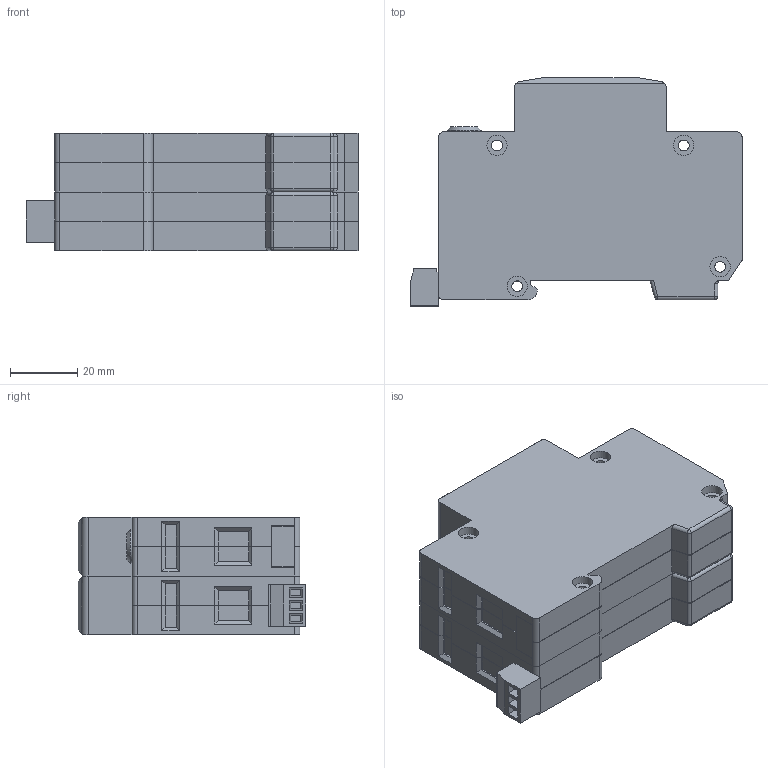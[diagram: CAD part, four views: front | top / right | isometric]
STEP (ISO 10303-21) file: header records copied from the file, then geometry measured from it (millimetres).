
FILE_DESCRIPTION(/* description */ (''),/* implementation_level */ '2;1');
FILE_NAME(/* name */ 'K:\PROJEKTY ROZPRACOVANÉ\MODELY DO KATALOGU\HSA, HLSA 24520, 10007\3D - STEP\H 1+1 S.stp',/* time_stamp */ '2022-04-01T07:43:16+02:00',/* author */ ('miko'),/* organization */ (''),/* preprocessor_version */ 'ST-DEVELOPER v18.1',/* originating_system */ 'Autodesk Inventor 2022',/* authorisation */ '');
FILE_SCHEMA (('AUTOMOTIVE_DESIGN { 1 0 10303 214 3 1 1 }'));
Length unit declared in the file: millimetre
Products named in the file (10): H 1+1 S; HLSA S; HLSA S_1; KONEKTOR DEGSON 15EDGK 3.81; KONEKTOR SAMEC; ISO 2009 - M1,6 x 2,5; KONEKTOR DEGSON 15EDGRC 3.81 (OBRÁCENÉ VÝV
ODY); HGDT (Z); HGDT (Z)_1; DIN 7985 (H) - M5x6-H
Assembly tree (13 placements, depth 4):
  H 1+1 S
    HLSA S
      HLSA S_1
      DIN 7985 (H) - M5x6-H  x2
      KONEKTOR DEGSON 15EDGK 3.81
        KONEKTOR SAMEC
        ISO 2009 - M1,6 x 2,5  x3
      KONEKTOR DEGSON 15EDGRC 3.81 (OBRÁCENÉ VÝV
ODY)
    HGDT (Z)
      HGDT (Z)_1
      DIN 7985 (H) - M5x6-H
Bounding box: 98.5 x 67.6 x 35 mm (x, y, z)
Volume: 169722.5 mm3; surface area: 38154.8 mm2
Topology: 10 solids, 10 shells, 805 faces, 2105 edges, 1373 vertices
Faces by surface type: plane 586, cylinder 131, cone 64, torus 13, sphere 11
Full cylindrical faces by diameter (mm): 0.968 x3, 1 x6, 1.171 x3, 1.6 x3, 1.9 x3, 2 x3, 2.5 x3, 3.2 x8, 4.6 x3, 5 x3, 6 x16, 10 x1
Entity records: 21823 total; most frequent: CARTESIAN_POINT 3836, ORIENTED_EDGE 3674, DIRECTION 3588, EDGE_CURVE 1837, LINE 1482, VECTOR 1482, VERTEX_POINT 1197, AXIS2_PLACEMENT_3D 1053
